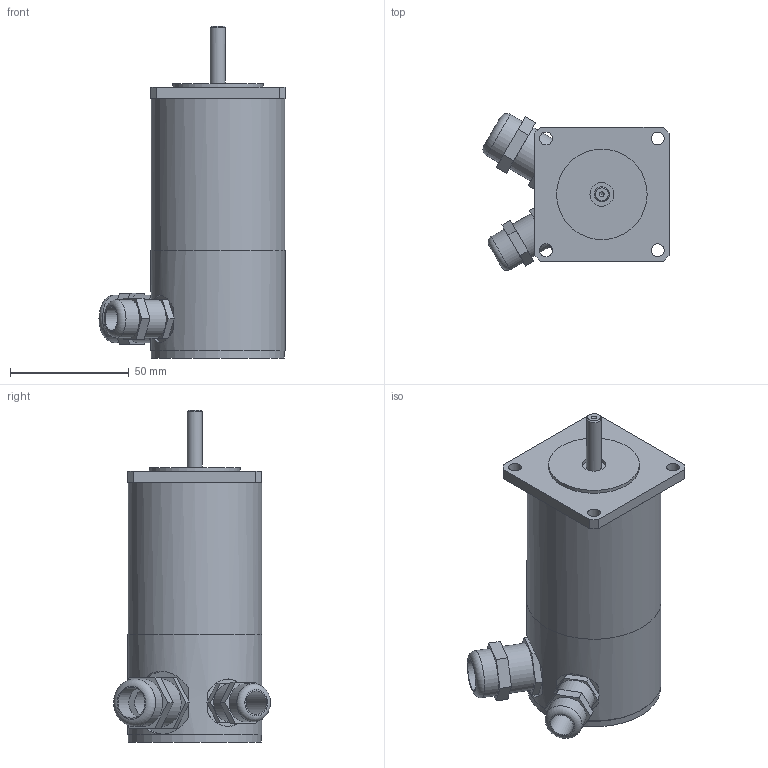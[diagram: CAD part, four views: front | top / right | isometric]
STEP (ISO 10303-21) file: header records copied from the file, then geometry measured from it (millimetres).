
FILE_DESCRIPTION((''),'2;1');
FILE_NAME('C:\Users\Reinhard\Documents\Inventor\Testschrittmotor\SM56\SM 56.2-E50-KV.stp','2012-11-14T20:49:34',('Reinhard'),(''),'Autodesk Inventor 2012','Autodesk Inventor 2012','');
FILE_SCHEMA(('CONFIG_CONTROL_DESIGN'));
Length unit declared in the file: millimetre
Products named in the file (1): SM 56
Bounding box: 78.27 x 66.07 x 139.7 mm (x, y, z)
Volume: 76657.6 mm3; surface area: 55426.1 mm2
Topology: 2 solids, 2 shells, 106 faces, 239 edges, 155 vertices
Faces by surface type: plane 70, cylinder 32, torus 2, cone 2
Full cylindrical faces by diameter (mm): 2 x1, 5.4 x4, 6.35 x2, 10 x2, 12 x2, 13 x2, 15 x2, 16 x2, 18.376 x1, 20 x3, 38.1 x1, 48 x1, 51.5 x1, 53.5 x1, 56 x1, 56.5 x2
Entity records: 2920 total; most frequent: CARTESIAN_POINT 587, DIRECTION 472, ORIENTED_EDGE 402, EDGE_CURVE 201, AXIS2_PLACEMENT_3D 174, EDGE_LOOP 172, VERTEX_POINT 149, VECTOR 124
